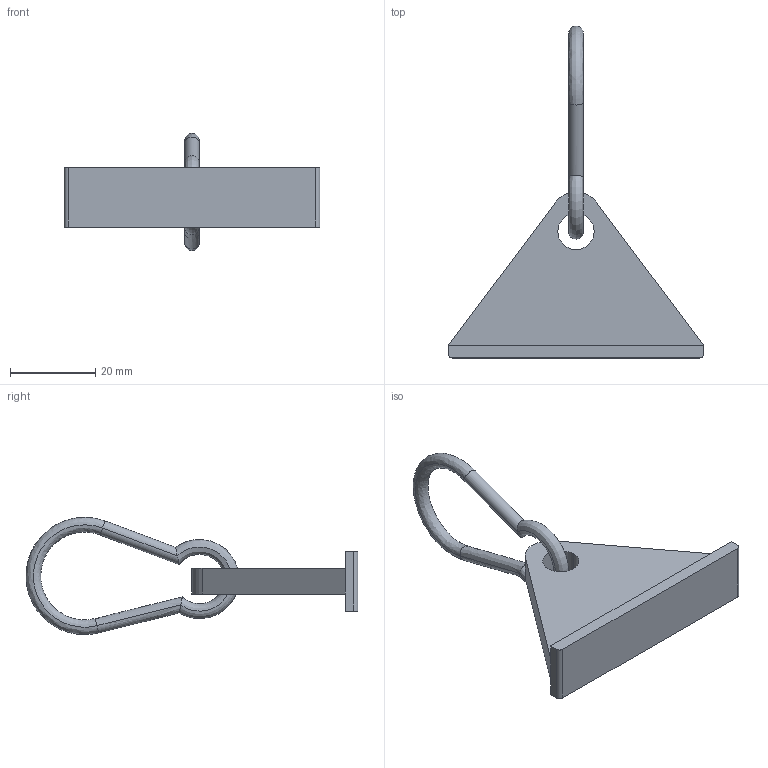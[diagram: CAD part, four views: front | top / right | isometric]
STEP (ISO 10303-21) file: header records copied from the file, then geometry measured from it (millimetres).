
FILE_DESCRIPTION (( 'STEP AP203' ), '1' );
FILE_NAME ('217-CE-MH-6.STEP', '2015-07-09T09:28:53', ( '' ), ( '' ), 'SwSTEP 2.0', 'SolidWorks 2013', '' );
FILE_SCHEMA (( 'CONFIG_CONTROL_DESIGN' ));
Length unit declared in the file: millimetre
Products named in the file (1): 217-CE-MH-6
Bounding box: 60 x 77.92 x 27.54 mm (x, y, z)
Volume: 10419.9 mm3; surface area: 6037.5 mm2
Topology: 2 solids, 2 shells, 26 faces, 58 edges, 34 vertices
Faces by surface type: plane 11, bspline 10, cylinder 5
Entity records: 1731 total; most frequent: CARTESIAN_POINT 1143, ORIENTED_EDGE 116, DIRECTION 88, EDGE_CURVE 58, VERTEX_POINT 34, LINE 30, VECTOR 30, AXIS2_PLACEMENT_3D 29
